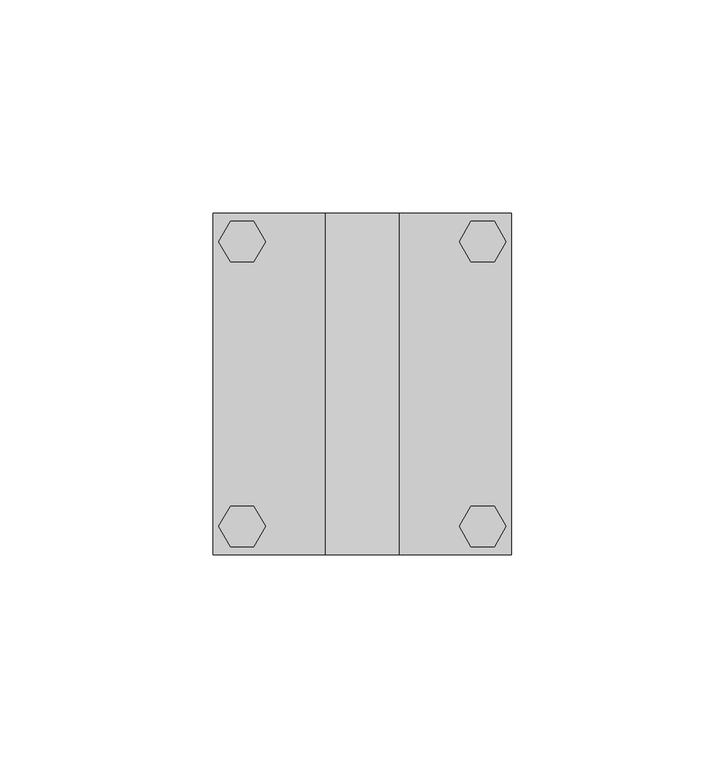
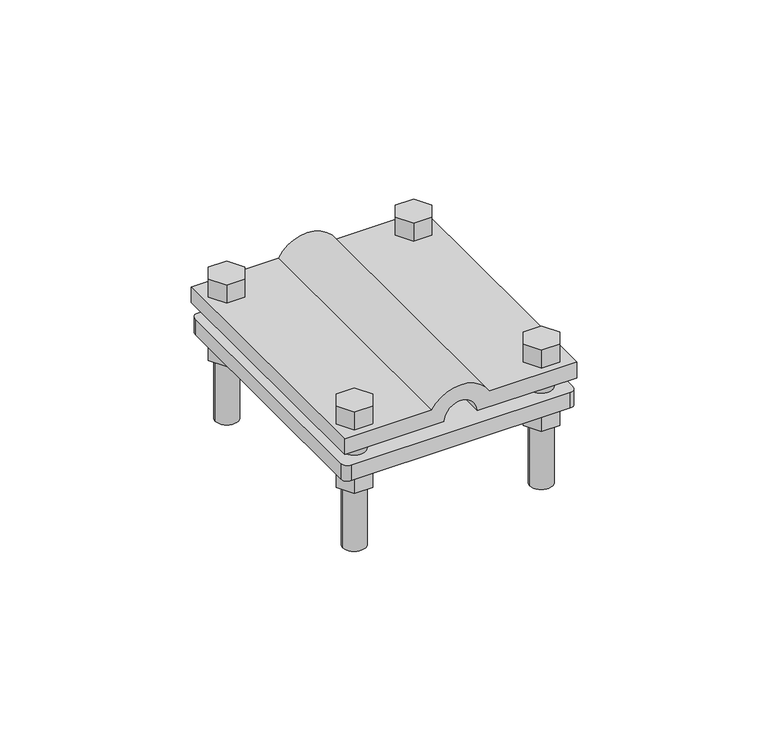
"""IFC4 building model written with IfcOpenShell, lengths in millimetres: proxy geometry, КНС_СоединительСтерженьПолоса_DKC : NG3116INOX_Нержавеющая сталь_80х70 мм."""

from ifc_helpers import new_model, si_unit, point, frame, frame_2d, origin, place, context, project, spatial, polyline, circle_curve, trimmed, segment, composite_curve, outline, extrude, source, transform, mapped, element, save


def security_devices_2842b777(model_context):
    return source(origin(), model_context, "Body", "SweptSolid", [
        extrude(outline(composite_curve([segment(polyline([(7.0, -35.0), (2.0, -35.0), (2.0, -5.0)]), True, "CONTINUOUS"), segment(trimmed(circle_curve(frame_2d((2.0, 0.0)), 5.0), [point((2.0, -5.0))], [point((2.0, 5.0))], True, "CARTESIAN"), True, "CONTINUOUS"), segment(polyline([(2.0, 5.0), (2.0, 35.0), (7.0, 35.0), (7.0, 8.660254)]), True, "CONTINUOUS"), segment(trimmed(circle_curve(frame_2d((2.0, 0.0)), 10.0), [point((7.0, 8.660254))], [point((7.0, -8.660254))], False, "CARTESIAN"), True, "CONTINUOUS"), segment(polyline([(7.0, -8.660254), (7.0, -35.0)]), True, "CONTINUOUS")], self_intersect=False)), frame((0.0, -40.0, 0.0), z_axis=(0.0, 1.0, 0.0), x_axis=(0.0, 0.0, 1.0)), (0.0, 0.0, 1.0), 80.0),
        extrude(outline(composite_curve([segment(trimmed(circle_curve(frame_2d((-28.2121057, 33.28125)), 3.4209609), [point((-31.6330666, 33.28125))], [point((-24.7911448, 33.28125))], False, "CARTESIAN"), True, "CONTINUOUS"), segment(trimmed(circle_curve(frame_2d((-28.2121057, 33.28125)), 3.4209609), [point((-24.7911448, 33.28125))], [point((-31.6330666, 33.28125))], False, "CARTESIAN"), True, "CONTINUOUS")], self_intersect=False)), frame((0.0, 0.0, -33.0), z_axis=(0.0, 0.0, 1.0), x_axis=(1.0, 0.0, 0.0)), (0.0, 0.0, 1.0), 40.0),
        extrude(outline(composite_curve([segment(trimmed(circle_curve(frame_2d((28.2121057, 33.28125)), 3.4209609), [point((24.7911448, 33.28125))], [point((31.6330666, 33.28125))], False, "CARTESIAN"), True, "CONTINUOUS"), segment(trimmed(circle_curve(frame_2d((28.2121057, 33.28125)), 3.4209609), [point((31.6330666, 33.28125))], [point((24.7911448, 33.28125))], False, "CARTESIAN"), True, "CONTINUOUS")], self_intersect=False)), frame((0.0, 0.0, -33.0), z_axis=(0.0, 0.0, 1.0), x_axis=(1.0, 0.0, 0.0)), (0.0, 0.0, 1.0), 40.0),
        extrude(outline(composite_curve([segment(trimmed(circle_curve(frame_2d((-28.2121057, -33.28125)), 3.4209609), [point((-31.6330666, -33.28125))], [point((-24.7911448, -33.28125))], False, "CARTESIAN"), True, "CONTINUOUS"), segment(trimmed(circle_curve(frame_2d((-28.2121057, -33.28125)), 3.4209609), [point((-24.7911448, -33.28125))], [point((-31.6330666, -33.28125))], False, "CARTESIAN"), True, "CONTINUOUS")], self_intersect=False)), frame((0.0, 0.0, -33.0), z_axis=(0.0, 0.0, 1.0), x_axis=(1.0, 0.0, 0.0)), (0.0, 0.0, 1.0), 40.0),
        extrude(outline(composite_curve([segment(trimmed(circle_curve(frame_2d((28.2121057, -33.28125)), 3.4209609), [point((24.7911448, -33.28125))], [point((31.6330666, -33.28125))], False, "CARTESIAN"), True, "CONTINUOUS"), segment(trimmed(circle_curve(frame_2d((28.2121057, -33.28125)), 3.4209609), [point((31.6330666, -33.28125))], [point((24.7911448, -33.28125))], False, "CARTESIAN"), True, "CONTINUOUS")], self_intersect=False)), frame((0.0, 0.0, -33.0), z_axis=(0.0, 0.0, 1.0), x_axis=(1.0, 0.0, 0.0)), (0.0, 0.0, 1.0), 40.0),
        extrude(outline(polyline([(-33.6996224, 33.3883083), (-30.955864, 38.1406371), (-25.4683473, 38.1406371), (-22.724589, 33.3883083), (-25.4683473, 28.6359794), (-30.955864, 28.6359794), (-33.6996224, 33.3883083)])), frame((0.0, 0.0, -13.0), z_axis=(0.0, 0.0, 1.0), x_axis=(1.0, 0.0, 0.0)), (0.0, 0.0, 1.0), 6.0),
        extrude(outline(polyline([(33.6996224, 33.3883083), (30.955864, 28.6359794), (25.4683473, 28.6359794), (22.724589, 33.3883083), (25.4683473, 38.1406371), (30.955864, 38.1406371), (33.6996224, 33.3883083)])), frame((0.0, 0.0, -13.0), z_axis=(0.0, 0.0, 1.0), x_axis=(1.0, 0.0, 0.0)), (0.0, 0.0, 1.0), 6.0),
        extrude(outline(polyline([(-33.6996224, -33.3883083), (-30.955864, -28.6359794), (-25.4683473, -28.6359794), (-22.724589, -33.3883083), (-25.4683473, -38.1406371), (-30.955864, -38.1406371), (-33.6996224, -33.3883083)])), frame((0.0, 0.0, -13.0), z_axis=(0.0, 0.0, 1.0), x_axis=(1.0, 0.0, 0.0)), (0.0, 0.0, 1.0), 6.0),
        extrude(outline(polyline([(33.6996224, -33.3883083), (30.955864, -38.1406371), (25.4683473, -38.1406371), (22.724589, -33.3883083), (25.4683473, -28.6359794), (30.955864, -28.6359794), (33.6996224, -33.3883083)])), frame((0.0, 0.0, -13.0), z_axis=(0.0, 0.0, 1.0), x_axis=(1.0, 0.0, 0.0)), (0.0, 0.0, 1.0), 6.0),
        extrude(outline(polyline([(-33.6996224, 33.3883083), (-30.955864, 38.1406371), (-25.4683473, 38.1406371), (-22.724589, 33.3883083), (-25.4683473, 28.6359794), (-30.955864, 28.6359794), (-33.6996224, 33.3883083)])), frame((0.0, 0.0, 7.0), z_axis=(0.0, 0.0, 1.0), x_axis=(1.0, 0.0, 0.0)), (0.0, 0.0, 1.0), 6.0),
        extrude(outline(polyline([(33.6996224, 33.3883083), (30.955864, 28.6359794), (25.4683473, 28.6359794), (22.724589, 33.3883083), (25.4683473, 38.1406371), (30.955864, 38.1406371), (33.6996224, 33.3883083)])), frame((0.0, 0.0, 7.0), z_axis=(0.0, 0.0, 1.0), x_axis=(1.0, 0.0, 0.0)), (0.0, 0.0, 1.0), 6.0),
        extrude(outline(polyline([(-33.6996224, -33.3883083), (-30.955864, -28.6359794), (-25.4683473, -28.6359794), (-22.724589, -33.3883083), (-25.4683473, -38.1406371), (-30.955864, -38.1406371), (-33.6996224, -33.3883083)])), frame((0.0, 0.0, 7.0), z_axis=(0.0, 0.0, 1.0), x_axis=(1.0, 0.0, 0.0)), (0.0, 0.0, 1.0), 6.0),
        extrude(outline(polyline([(33.6996224, -33.3883083), (30.955864, -38.1406371), (25.4683473, -38.1406371), (22.724589, -33.3883083), (25.4683473, -28.6359794), (30.955864, -28.6359794), (33.6996224, -33.3883083)])), frame((0.0, 0.0, 7.0), z_axis=(0.0, 0.0, 1.0), x_axis=(1.0, 0.0, 0.0)), (0.0, 0.0, 1.0), 6.0),
        extrude(outline(composite_curve([segment(trimmed(circle_curve(frame_2d((33.0, 38.0)), 2.0), [point((33.0, 40.0))], [point((35.0, 38.0))], False, "CARTESIAN"), True, "CONTINUOUS"), segment(polyline([(35.0, 38.0), (35.0, -38.0)]), True, "CONTINUOUS"), segment(trimmed(circle_curve(frame_2d((33.0, -38.0)), 2.0), [point((35.0, -38.0))], [point((33.0, -40.0))], False, "CARTESIAN"), True, "CONTINUOUS"), segment(polyline([(33.0, -40.0), (-33.0, -40.0)]), True, "CONTINUOUS"), segment(trimmed(circle_curve(frame_2d((-33.0, -38.0)), 2.0), [point((-33.0, -40.0))], [point((-35.0, -38.0))], False, "CARTESIAN"), True, "CONTINUOUS"), segment(polyline([(-35.0, -38.0), (-35.0, 38.0)]), True, "CONTINUOUS"), segment(trimmed(circle_curve(frame_2d((-33.0, 38.0)), 2.0), [point((-35.0, 38.0))], [point((-33.0, 40.0))], False, "CARTESIAN"), True, "CONTINUOUS"), segment(polyline([(-33.0, 40.0), (33.0, 40.0)]), True, "CONTINUOUS")], self_intersect=False)), frame((0.0, 0.0, -7.0), z_axis=(0.0, 0.0, 1.0), x_axis=(1.0, 0.0, 0.0)), (0.0, 0.0, 1.0), 5.0),
    ])


if __name__ == "__main__":
    model = new_model("IFC4")
    model_context = context("Model", 3, world=origin())
    ifc_project = project(units=[si_unit("LENGTHUNIT", "METRE", prefix="MILLI")], contexts=[model_context])
    site = spatial("IfcSite", under=ifc_project)
    building = spatial("IfcBuilding", under=site)
    placement = place(None, origin())
    security_devices_shape = security_devices_2842b777(model_context)
    element("IfcBuildingElementProxy", 1, Name="КНС_СоединительСтерженьПолоса_DKC : NG3116INOX_Нержавеющая сталь_80х70 мм", ObjectType="КНС_СоединительСтерженьПолоса_DKC : NG3116INOX_Нержавеющая сталь_80х70 мм", at=placement, inside=building, context=model_context, shape_type="MappedRepresentation", body=[
        mapped(security_devices_shape, transform((0.0, 0.0, 0.0), x_axis=(1.0, 0.0, 0.0), y_axis=(0.0, 1.0, 0.0), z_axis=(0.0, 0.0, 1.0))),
    ])
    save(model, "model.ifc")
